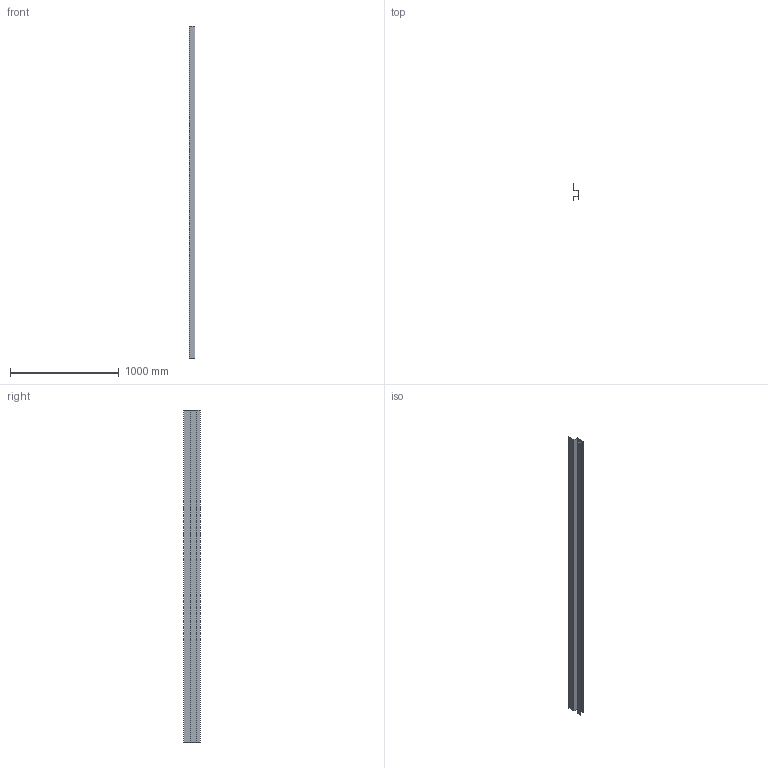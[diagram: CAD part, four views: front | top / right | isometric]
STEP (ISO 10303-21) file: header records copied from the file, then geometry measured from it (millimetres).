
FILE_DESCRIPTION(/* description */ (''),/* implementation_level */ '2;1');
FILE_NAME(/* name */ 'M13J.stp',/* time_stamp */ '2025-05-14T09:55:23-04:00',/* author */ ('gabrielle.gilbert'),/* organization */ (''),/* preprocessor_version */ 'ST-DEVELOPER v20',/* originating_system */ 'Autodesk Inventor 2025',/* authorisation */ '');
FILE_SCHEMA (('AUTOMOTIVE_DESIGN { 1 0 10303 214 3 1 1 }'));
Length unit declared in the file: inch
Products named in the file (3): M13I; M13I (1-2); M13I (2-2)
Assembly tree (2 placements, depth 2):
  M13I
    M13I (1-2)
    M13I (2-2)
Bounding box: 47.73 x 155.75 x 3048 mm (x, y, z)
Volume: 427294.4 mm3; surface area: 1885445.2 mm2
Topology: 2 solids, 2 shells, 32 faces, 84 edges, 56 vertices
Faces by surface type: plane 22, cylinder 10
Entity records: 1097 total; most frequent: DIRECTION 178, CARTESIAN_POINT 177, ORIENTED_EDGE 168, EDGE_CURVE 84, LINE 64, VECTOR 64, AXIS2_PLACEMENT_3D 57, VERTEX_POINT 56
